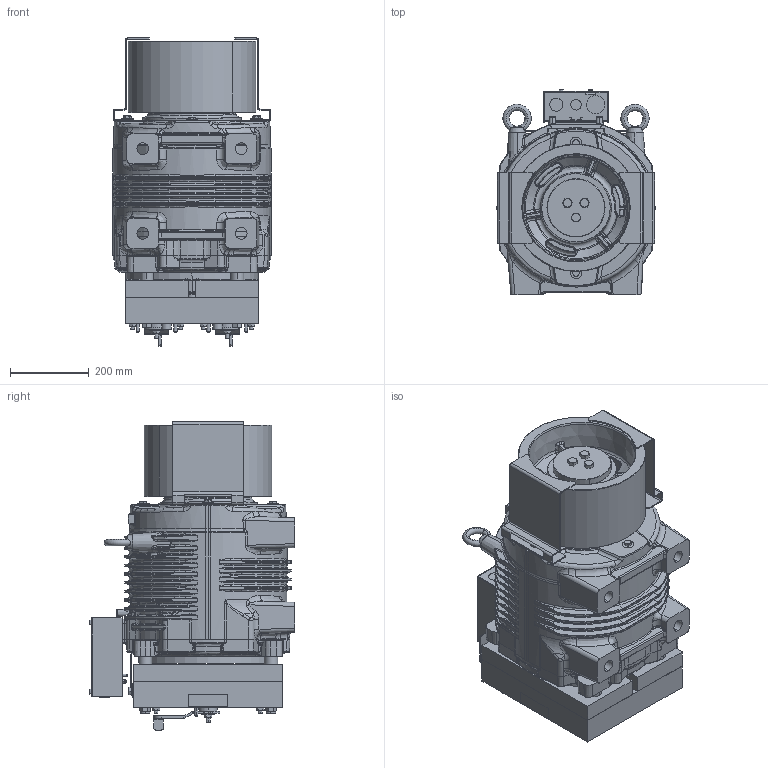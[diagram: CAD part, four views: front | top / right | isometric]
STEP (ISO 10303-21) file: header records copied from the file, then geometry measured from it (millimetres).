
FILE_DESCRIPTION((''),'2;1');
FILE_NAME('00363634_ASM','2020-06-16T',('furlanis'),('Sicor spa'),'CREO PARAMETRIC BY PTC INC, 2017170','CREO PARAMETRIC BY PTC INC, 2017170','');
FILE_SCHEMA(('CONFIG_CONTROL_DESIGN'));
Length unit declared in the file: millimetre
Products named in the file (4): SG62_; _320_182; _320; 00363634_ASM
Assembly tree (4 placements, depth 2):
  00363634_ASM
    SG62_
    _320_182
    _320  x2
Bounding box: 402.25 x 521.9 x 783.64 mm (x, y, z)
Volume: 8242780.9 mm3; surface area: 4575245.8 mm2
Topology: 3 solids, 181 shells, 4033 faces, 11399 edges, 7303 vertices
Faces by surface type: bspline 1120, plane 991, cylinder 887, torus 578, cone 437, sphere 20
Entity records: 222809 total; most frequent: CARTESIAN_POINT 134889, ORIENTED_EDGE 19562, DIRECTION 14763, EDGE_CURVE 11213, VERTEX_POINT 7207, AXIS2_PLACEMENT_3D 5889, B_SPLINE_CURVE_WITH_KNOTS 5194, EDGE_LOOP 3980
